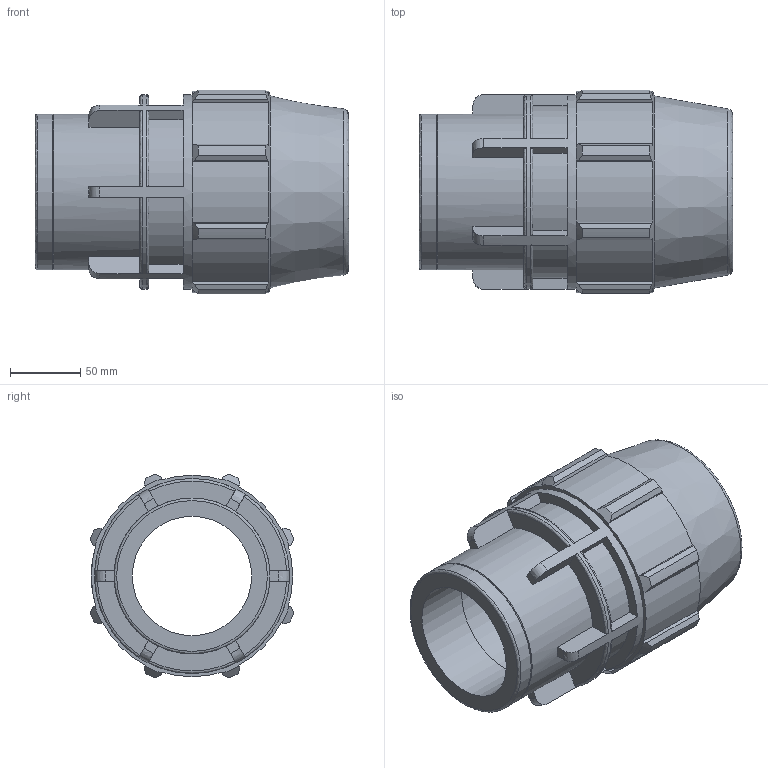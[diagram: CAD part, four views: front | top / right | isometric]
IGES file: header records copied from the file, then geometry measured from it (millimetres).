
Global section: file name: 0703060900300A.ipt; native system: Autodesk Inventor 2015; preprocessor: unknown; author: KIM; date: 20180325.201151; units: millimetre
Bounding box: 223 x 144.9 x 144.9 mm (x, y, z)
Volume: 1440401.6 mm3; surface area: 185781.9 mm2
Topology: 1 solids, 1 shells, 146 faces, 408 edges, 273 vertices
Faces by surface type: plane 85, cylinder 25, revolution 24, cone 12
Full cylindrical faces by diameter (mm): 110.88 x2, 138.6 x1
